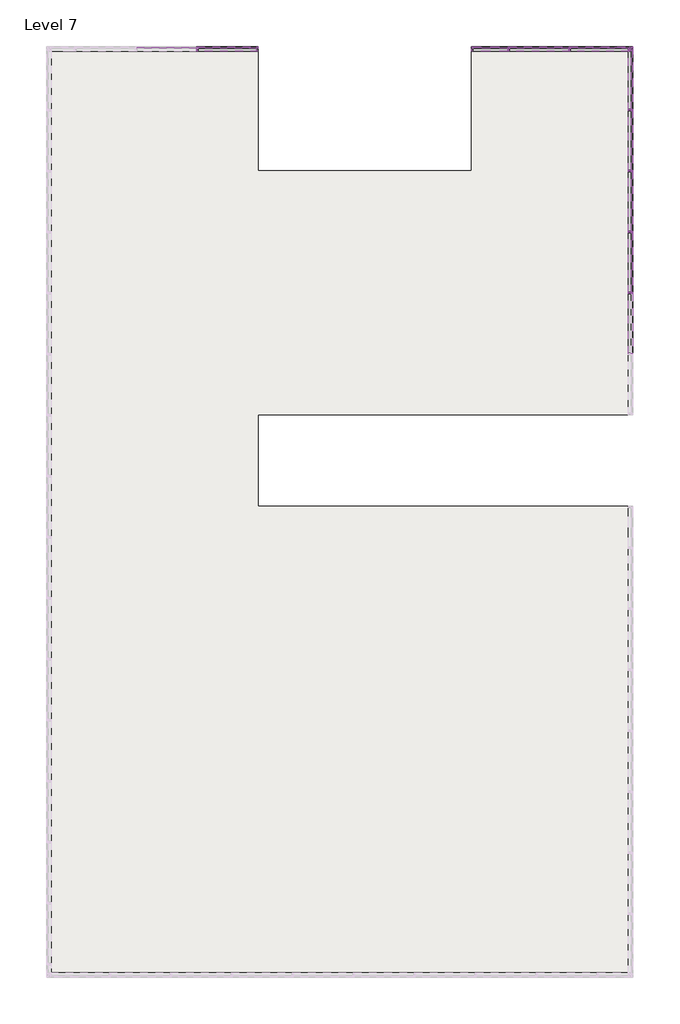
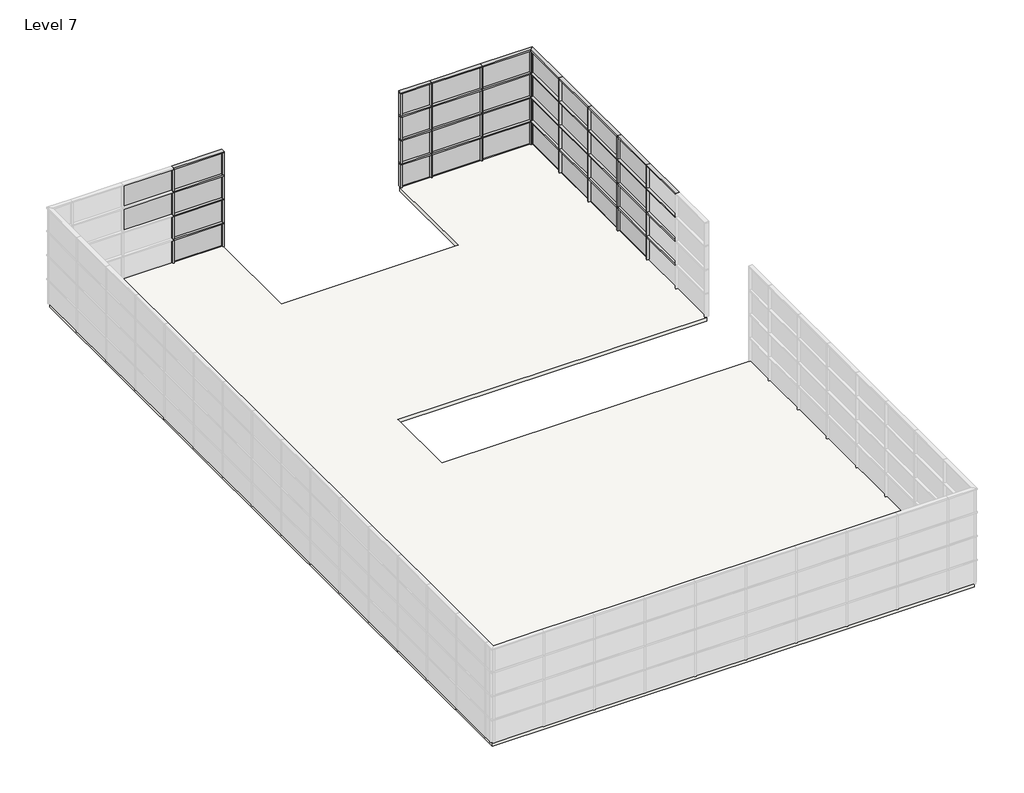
# One storey, part 5 of 5: 80 members, 34 plates, 1 slab.
"""IFC4 building model written with IfcOpenShell, lengths in millimetres."""

from ifc_helpers import new_model, si_unit, frame, origin, place, context, project, spatial, polyline, outline, extrude, transform, mapped, element, save
from components import rectangular_mullion_50_x_150mm_a053b0ca, rectangular_mullion_50_x_150mm_116cff39, rectangular_mullion_50_x_150mm_aa47fe12, rectangular_mullion_50_x_150mm_3a148f0f, rectangular_mullion_50_x_150mm_a91aaa2b, rectangular_mullion_50_x_150mm_12a430f9, rectangular_mullion_50_x_150mm_ca70b892, rectangular_mullion_50_x_150mm_11a594ce, rectangular_mullion_50_x_150mm_6b24f785, rectangular_mullion_50_x_150mm_614fafcd, rectangular_mullion_50_x_150mm_947845bb, rectangular_mullion_50_x_150mm_98c2ab41, system_panel_glazed_92d57a36, system_panel_glazed_751a585c, system_panel_glazed_28c32ad2, system_panel_glazed_08de6f5f, system_panel_glazed_c7e3270c, system_panel_glazed_892a108f

model = new_model("IFC4")

# Units and contexts
model_context = context("Model", 3, world=origin())
ifc_project = project(units=[si_unit("LENGTHUNIT", "METRE", prefix="MILLI")], contexts=[model_context])

# Site, building, storey
site = spatial("IfcSite", under=ifc_project)
building = spatial("IfcBuilding", under=site)
storey = spatial("IfcBuildingStorey", under=building, Name="Level 7", Elevation=24000.0)

# Members
placement = place(None, origin())
rectangular_mullion_50_x_150mm_shape = rectangular_mullion_50_x_150mm_a053b0ca(model_context)
element("IfcMember", 1, ObjectType="Rectangular Mullion : 50 x 150mm", at=placement, inside=storey, context=model_context, shape_type="MappedRepresentation", body=[
    mapped(rectangular_mullion_50_x_150mm_shape, transform((-721.580781, 8375.9839566, 24025.0), x_axis=(-1.0, 0.0, 0.0), y_axis=(0.0, 1.0, 0.0), z_axis=(0.0, 0.0, -0.9999999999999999))),
])
element("IfcMember", 2, ObjectType="Rectangular Mullion : 50 x 150mm", at=placement, inside=storey, context=model_context, shape_type="MappedRepresentation", body=[
    mapped(rectangular_mullion_50_x_150mm_shape, transform((-721.580781, 8375.9839566, 25025.0), x_axis=(-1.0, 0.0, 0.0), y_axis=(0.0, 1.0, 0.0), z_axis=(0.0, 0.0, -0.9999999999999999))),
])
element("IfcMember", 3, ObjectType="Rectangular Mullion : 50 x 150mm", at=placement, inside=storey, context=model_context, shape_type="MappedRepresentation", body=[
    mapped(rectangular_mullion_50_x_150mm_shape, transform((-721.580781, 8375.9839566, 26025.0), x_axis=(-1.0, 0.0, 0.0), y_axis=(0.0, 1.0, 0.0), z_axis=(0.0, 0.0, -0.9999999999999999))),
])
element("IfcMember", 4, ObjectType="Rectangular Mullion : 50 x 150mm", at=placement, inside=storey, context=model_context, shape_type="MappedRepresentation", body=[
    mapped(rectangular_mullion_50_x_150mm_shape, transform((9503.2660975, 8375.9839566, 24025.0), x_axis=(-1.0, 0.0, 0.0), y_axis=(0.0, 1.0, 0.0), z_axis=(0.0, 0.0, -0.9999999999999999))),
])
element("IfcMember", 5, ObjectType="Rectangular Mullion : 50 x 150mm", at=placement, inside=storey, context=model_context, shape_type="MappedRepresentation", body=[
    mapped(rectangular_mullion_50_x_150mm_shape, transform((9503.2660975, 8375.9839566, 25025.0), x_axis=(-1.0, 0.0, 0.0), y_axis=(0.0, 1.0, 0.0), z_axis=(0.0, 0.0, -0.9999999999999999))),
])
element("IfcMember", 6, ObjectType="Rectangular Mullion : 50 x 150mm", at=placement, inside=storey, context=model_context, shape_type="MappedRepresentation", body=[
    mapped(rectangular_mullion_50_x_150mm_shape, transform((9503.2660975, 8375.9839566, 26025.0), x_axis=(-1.0, 0.0, 0.0), y_axis=(0.0, 1.0, 0.0), z_axis=(0.0, 0.0, -0.9999999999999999))),
])
element("IfcMember", 7, ObjectType="Rectangular Mullion : 50 x 150mm", at=placement, inside=storey, context=model_context, shape_type="MappedRepresentation", body=[
    mapped(rectangular_mullion_50_x_150mm_shape, transform((11503.2660975, 8375.9839566, 24025.0), x_axis=(-1.0, 0.0, 0.0), y_axis=(0.0, 1.0, 0.0), z_axis=(0.0, 0.0, -0.9999999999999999))),
])
element("IfcMember", 8, ObjectType="Rectangular Mullion : 50 x 150mm", at=placement, inside=storey, context=model_context, shape_type="MappedRepresentation", body=[
    mapped(rectangular_mullion_50_x_150mm_shape, transform((11503.2660975, 8375.9839566, 25025.0), x_axis=(-1.0, 0.0, 0.0), y_axis=(0.0, 1.0, 0.0), z_axis=(0.0, 0.0, -0.9999999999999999))),
])
element("IfcMember", 9, ObjectType="Rectangular Mullion : 50 x 150mm", at=placement, inside=storey, context=model_context, shape_type="MappedRepresentation", body=[
    mapped(rectangular_mullion_50_x_150mm_shape, transform((11503.2660975, 8375.9839566, 26025.0), x_axis=(-1.0, 0.0, 0.0), y_axis=(0.0, 1.0, 0.0), z_axis=(0.0, 0.0, -0.9999999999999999))),
])
element("IfcMember", 10, ObjectType="Rectangular Mullion : 50 x 150mm", at=placement, inside=storey, context=model_context, shape_type="MappedRepresentation", body=[
    mapped(rectangular_mullion_50_x_150mm_shape, transform((13503.2660975, 375.9839566, 24025.0), x_axis=(0.0, 1.0, 0.0), y_axis=(1.0, 0.0, 0.0), z_axis=(0.0, 0.0, -0.9999999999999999))),
])
element("IfcMember", 11, ObjectType="Rectangular Mullion : 50 x 150mm", at=placement, inside=storey, context=model_context, shape_type="MappedRepresentation", body=[
    mapped(rectangular_mullion_50_x_150mm_shape, transform((13503.2660975, 375.9839566, 25025.0), x_axis=(0.0, 1.0, 0.0), y_axis=(1.0, 0.0, 0.0), z_axis=(0.0, 0.0, -0.9999999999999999))),
])
element("IfcMember", 12, ObjectType="Rectangular Mullion : 50 x 150mm", at=placement, inside=storey, context=model_context, shape_type="MappedRepresentation", body=[
    mapped(rectangular_mullion_50_x_150mm_shape, transform((13503.2660975, 375.9839566, 26025.0), x_axis=(0.0, 1.0, 0.0), y_axis=(1.0, 0.0, 0.0), z_axis=(0.0, 0.0, -0.9999999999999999))),
])
element("IfcMember", 13, ObjectType="Rectangular Mullion : 50 x 150mm", at=placement, inside=storey, context=model_context, shape_type="MappedRepresentation", body=[
    mapped(rectangular_mullion_50_x_150mm_shape, transform((13503.2660975, 2375.9839566, 24025.0), x_axis=(0.0, 1.0, 0.0), y_axis=(1.0, 0.0, 0.0), z_axis=(0.0, 0.0, -0.9999999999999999))),
])
element("IfcMember", 14, ObjectType="Rectangular Mullion : 50 x 150mm", at=placement, inside=storey, context=model_context, shape_type="MappedRepresentation", body=[
    mapped(rectangular_mullion_50_x_150mm_shape, transform((13503.2660975, 2375.9839566, 25025.0), x_axis=(0.0, 1.0, 0.0), y_axis=(1.0, 0.0, 0.0), z_axis=(0.0, 0.0, -0.9999999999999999))),
])
element("IfcMember", 15, ObjectType="Rectangular Mullion : 50 x 150mm", at=placement, inside=storey, context=model_context, shape_type="MappedRepresentation", body=[
    mapped(rectangular_mullion_50_x_150mm_shape, transform((13503.2660975, 2375.9839566, 26025.0), x_axis=(0.0, 1.0, 0.0), y_axis=(1.0, 0.0, 0.0), z_axis=(0.0, 0.0, -0.9999999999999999))),
])
element("IfcMember", 16, ObjectType="Rectangular Mullion : 50 x 150mm", at=placement, inside=storey, context=model_context, shape_type="MappedRepresentation", body=[
    mapped(rectangular_mullion_50_x_150mm_shape, transform((13503.2660975, 4375.9839566, 24025.0), x_axis=(0.0, 1.0, 0.0), y_axis=(1.0, 0.0, 0.0), z_axis=(0.0, 0.0, -0.9999999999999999))),
])
element("IfcMember", 17, ObjectType="Rectangular Mullion : 50 x 150mm", at=placement, inside=storey, context=model_context, shape_type="MappedRepresentation", body=[
    mapped(rectangular_mullion_50_x_150mm_shape, transform((13503.2660975, 4375.9839566, 25025.0), x_axis=(0.0, 1.0, 0.0), y_axis=(1.0, 0.0, 0.0), z_axis=(0.0, 0.0, -0.9999999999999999))),
])
element("IfcMember", 18, ObjectType="Rectangular Mullion : 50 x 150mm", at=placement, inside=storey, context=model_context, shape_type="MappedRepresentation", body=[
    mapped(rectangular_mullion_50_x_150mm_shape, transform((13503.2660975, 4375.9839566, 26025.0), x_axis=(0.0, 1.0, 0.0), y_axis=(1.0, 0.0, 0.0), z_axis=(0.0, 0.0, -0.9999999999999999))),
])
element("IfcMember", 19, ObjectType="Rectangular Mullion : 50 x 150mm", at=placement, inside=storey, context=model_context, shape_type="MappedRepresentation", body=[
    mapped(rectangular_mullion_50_x_150mm_shape, transform((13503.2660975, 6375.9839566, 24025.0), x_axis=(0.0, 1.0, 0.0), y_axis=(1.0, 0.0, 0.0), z_axis=(0.0, 0.0, -0.9999999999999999))),
])
element("IfcMember", 20, ObjectType="Rectangular Mullion : 50 x 150mm", at=placement, inside=storey, context=model_context, shape_type="MappedRepresentation", body=[
    mapped(rectangular_mullion_50_x_150mm_shape, transform((13503.2660975, 6375.9839566, 25025.0), x_axis=(0.0, 1.0, 0.0), y_axis=(1.0, 0.0, 0.0), z_axis=(0.0, 0.0, -0.9999999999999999))),
])
element("IfcMember", 21, ObjectType="Rectangular Mullion : 50 x 150mm", at=placement, inside=storey, context=model_context, shape_type="MappedRepresentation", body=[
    mapped(rectangular_mullion_50_x_150mm_shape, transform((13503.2660975, 6375.9839566, 26025.0), x_axis=(0.0, 1.0, 0.0), y_axis=(1.0, 0.0, 0.0), z_axis=(0.0, 0.0, -0.9999999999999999))),
])
rectangular_mullion_50_x_150mm_2_shape = rectangular_mullion_50_x_150mm_116cff39(model_context)
element("IfcMember", 22, ObjectType="Rectangular Mullion : 50 x 150mm", at=placement, inside=storey, context=model_context, shape_type="MappedRepresentation", body=[
    mapped(rectangular_mullion_50_x_150mm_2_shape, transform((-721.580781, 8375.9839566, 27025.0), x_axis=(-1.0, 0.0, 0.0), y_axis=(0.0, 1.0, 0.0), z_axis=(0.0, 0.0, -1.0))),
])
element("IfcMember", 23, ObjectType="Rectangular Mullion : 50 x 150mm", at=placement, inside=storey, context=model_context, shape_type="MappedRepresentation", body=[
    mapped(rectangular_mullion_50_x_150mm_2_shape, transform((9503.2660975, 8375.9839566, 27025.0), x_axis=(-1.0, 0.0, 0.0), y_axis=(0.0, 1.0, 0.0), z_axis=(0.0, 0.0, -1.0))),
])
element("IfcMember", 24, ObjectType="Rectangular Mullion : 50 x 150mm", at=placement, inside=storey, context=model_context, shape_type="MappedRepresentation", body=[
    mapped(rectangular_mullion_50_x_150mm_2_shape, transform((11503.2660975, 8375.9839566, 27025.0), x_axis=(-1.0, 0.0, 0.0), y_axis=(0.0, 1.0, 0.0), z_axis=(0.0, 0.0, -1.0))),
])
element("IfcMember", 25, ObjectType="Rectangular Mullion : 50 x 150mm", at=placement, inside=storey, context=model_context, shape_type="MappedRepresentation", body=[
    mapped(rectangular_mullion_50_x_150mm_2_shape, transform((13503.2660975, 375.9839566, 27025.0), x_axis=(0.0, 1.0, 0.0), y_axis=(1.0, 0.0, 0.0), z_axis=(0.0, 0.0, -1.0))),
])
element("IfcMember", 26, ObjectType="Rectangular Mullion : 50 x 150mm", at=placement, inside=storey, context=model_context, shape_type="MappedRepresentation", body=[
    mapped(rectangular_mullion_50_x_150mm_2_shape, transform((13503.2660975, 2375.9839566, 27025.0), x_axis=(0.0, 1.0, 0.0), y_axis=(1.0, 0.0, 0.0), z_axis=(0.0, 0.0, -1.0))),
])
element("IfcMember", 27, ObjectType="Rectangular Mullion : 50 x 150mm", at=placement, inside=storey, context=model_context, shape_type="MappedRepresentation", body=[
    mapped(rectangular_mullion_50_x_150mm_2_shape, transform((13503.2660975, 4375.9839566, 27025.0), x_axis=(0.0, 1.0, 0.0), y_axis=(1.0, 0.0, 0.0), z_axis=(0.0, 0.0, -1.0))),
])
element("IfcMember", 28, ObjectType="Rectangular Mullion : 50 x 150mm", at=placement, inside=storey, context=model_context, shape_type="MappedRepresentation", body=[
    mapped(rectangular_mullion_50_x_150mm_2_shape, transform((13503.2660975, 6375.9839566, 27025.0), x_axis=(0.0, 1.0, 0.0), y_axis=(1.0, 0.0, 0.0), z_axis=(0.0, 0.0, -1.0))),
])
rectangular_mullion_50_x_150mm_3_shape = rectangular_mullion_50_x_150mm_aa47fe12(model_context)
element("IfcMember", 29, ObjectType="Rectangular Mullion : 50 x 150mm", at=placement, inside=storey, context=model_context, shape_type="MappedRepresentation", body=[
    mapped(rectangular_mullion_50_x_150mm_3_shape, transform((-721.580781, 8375.9839566, 28000.0), x_axis=(0.0, 0.0, 1.0), y_axis=(0.0, 1.0, 0.0), z_axis=(-1.0, 0.0, 0.0))),
])
element("IfcMember", 30, ObjectType="Rectangular Mullion : 50 x 150mm", at=placement, inside=storey, context=model_context, shape_type="MappedRepresentation", body=[
    mapped(rectangular_mullion_50_x_150mm_3_shape, transform((9503.2660975, 8375.9839566, 28000.0), x_axis=(0.0, 0.0, 1.0), y_axis=(0.0, 1.0, 0.0), z_axis=(-1.0, 0.0, 0.0))),
])
element("IfcMember", 31, ObjectType="Rectangular Mullion : 50 x 150mm", at=placement, inside=storey, context=model_context, shape_type="MappedRepresentation", body=[
    mapped(rectangular_mullion_50_x_150mm_3_shape, transform((13503.2660975, 375.9839566, 28000.0), x_axis=(0.0, 0.0, 1.0), y_axis=(1.0, 0.0, 0.0), z_axis=(0.0, 0.9999999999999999, 0.0))),
])
element("IfcMember", 32, ObjectType="Rectangular Mullion : 50 x 150mm", at=placement, inside=storey, context=model_context, shape_type="MappedRepresentation", body=[
    mapped(rectangular_mullion_50_x_150mm_3_shape, transform((13503.2660975, 2375.9839566, 28000.0), x_axis=(0.0, 0.0, 1.0), y_axis=(1.0, 0.0, 0.0), z_axis=(0.0, 1.0, 0.0))),
])
element("IfcMember", 33, ObjectType="Rectangular Mullion : 50 x 150mm", at=placement, inside=storey, context=model_context, shape_type="MappedRepresentation", body=[
    mapped(rectangular_mullion_50_x_150mm_3_shape, transform((13503.2660975, 4375.9839566, 28000.0), x_axis=(0.0, 0.0, 1.0), y_axis=(1.0, 0.0, 0.0), z_axis=(0.0, 1.0, 0.0))),
])
element("IfcMember", 34, ObjectType="Rectangular Mullion : 50 x 150mm", at=placement, inside=storey, context=model_context, shape_type="MappedRepresentation", body=[
    mapped(rectangular_mullion_50_x_150mm_3_shape, transform((13503.2660975, 6375.9839566, 28000.0), x_axis=(0.0, 0.0, 1.0), y_axis=(1.0, 0.0, 0.0), z_axis=(0.0, 1.0, 0.0))),
])
rectangular_mullion_50_x_150mm_4_shape = rectangular_mullion_50_x_150mm_3a148f0f(model_context)
element("IfcMember", 35, ObjectType="Rectangular Mullion : 50 x 150mm", at=placement, inside=storey, context=model_context, shape_type="MappedRepresentation", body=[
    mapped(rectangular_mullion_50_x_150mm_4_shape, transform((-721.580781, 8375.9839566, 25000.0), x_axis=(0.0, 0.0, 1.0), y_axis=(0.0, 1.0, 0.0), z_axis=(-1.0, 0.0, 0.0))),
])
element("IfcMember", 36, ObjectType="Rectangular Mullion : 50 x 150mm", at=placement, inside=storey, context=model_context, shape_type="MappedRepresentation", body=[
    mapped(rectangular_mullion_50_x_150mm_4_shape, transform((-721.580781, 8375.9839566, 26000.0), x_axis=(0.0, 0.0, 1.0), y_axis=(0.0, 1.0, 0.0), z_axis=(-1.0, 0.0, 0.0))),
])
element("IfcMember", 37, ObjectType="Rectangular Mullion : 50 x 150mm", at=placement, inside=storey, context=model_context, shape_type="MappedRepresentation", body=[
    mapped(rectangular_mullion_50_x_150mm_4_shape, transform((-721.580781, 8375.9839566, 27000.0), x_axis=(0.0, 0.0, 1.0), y_axis=(0.0, 1.0, 0.0), z_axis=(-1.0, 0.0, 0.0))),
])
element("IfcMember", 38, ObjectType="Rectangular Mullion : 50 x 150mm", at=placement, inside=storey, context=model_context, shape_type="MappedRepresentation", body=[
    mapped(rectangular_mullion_50_x_150mm_4_shape, transform((9503.2660975, 8375.9839566, 25000.0), x_axis=(0.0, 0.0, 1.0), y_axis=(0.0, 1.0, 0.0), z_axis=(-1.0, 0.0, 0.0))),
])
element("IfcMember", 39, ObjectType="Rectangular Mullion : 50 x 150mm", at=placement, inside=storey, context=model_context, shape_type="MappedRepresentation", body=[
    mapped(rectangular_mullion_50_x_150mm_4_shape, transform((9503.2660975, 8375.9839566, 26000.0), x_axis=(0.0, 0.0, 1.0), y_axis=(0.0, 1.0, 0.0), z_axis=(-1.0, 0.0, 0.0))),
])
element("IfcMember", 40, ObjectType="Rectangular Mullion : 50 x 150mm", at=placement, inside=storey, context=model_context, shape_type="MappedRepresentation", body=[
    mapped(rectangular_mullion_50_x_150mm_4_shape, transform((9503.2660975, 8375.9839566, 27000.0), x_axis=(0.0, 0.0, 1.0), y_axis=(0.0, 1.0, 0.0), z_axis=(-1.0, 0.0, 0.0))),
])
element("IfcMember", 41, ObjectType="Rectangular Mullion : 50 x 150mm", at=placement, inside=storey, context=model_context, shape_type="MappedRepresentation", body=[
    mapped(rectangular_mullion_50_x_150mm_4_shape, transform((13503.2660975, 375.9839566, 25000.0), x_axis=(0.0, 0.0, 1.0), y_axis=(1.0, 0.0, 0.0), z_axis=(0.0, 0.9999999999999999, 0.0))),
])
element("IfcMember", 42, ObjectType="Rectangular Mullion : 50 x 150mm", at=placement, inside=storey, context=model_context, shape_type="MappedRepresentation", body=[
    mapped(rectangular_mullion_50_x_150mm_4_shape, transform((13503.2660975, 2375.9839566, 25000.0), x_axis=(0.0, 0.0, 1.0), y_axis=(1.0, 0.0, 0.0), z_axis=(0.0, 1.0, 0.0))),
])
element("IfcMember", 43, ObjectType="Rectangular Mullion : 50 x 150mm", at=placement, inside=storey, context=model_context, shape_type="MappedRepresentation", body=[
    mapped(rectangular_mullion_50_x_150mm_4_shape, transform((13503.2660975, 4375.9839566, 25000.0), x_axis=(0.0, 0.0, 1.0), y_axis=(1.0, 0.0, 0.0), z_axis=(0.0, 1.0, 0.0))),
])
element("IfcMember", 44, ObjectType="Rectangular Mullion : 50 x 150mm", at=placement, inside=storey, context=model_context, shape_type="MappedRepresentation", body=[
    mapped(rectangular_mullion_50_x_150mm_4_shape, transform((13503.2660975, 6375.9839566, 25000.0), x_axis=(0.0, 0.0, 1.0), y_axis=(1.0, 0.0, 0.0), z_axis=(0.0, 1.0, 0.0))),
])
element("IfcMember", 45, ObjectType="Rectangular Mullion : 50 x 150mm", at=placement, inside=storey, context=model_context, shape_type="MappedRepresentation", body=[
    mapped(rectangular_mullion_50_x_150mm_4_shape, transform((13503.2660975, 375.9839566, 26000.0), x_axis=(0.0, 0.0, 1.0), y_axis=(1.0, 0.0, 0.0), z_axis=(0.0, 0.9999999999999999, 0.0))),
])
element("IfcMember", 46, ObjectType="Rectangular Mullion : 50 x 150mm", at=placement, inside=storey, context=model_context, shape_type="MappedRepresentation", body=[
    mapped(rectangular_mullion_50_x_150mm_4_shape, transform((13503.2660975, 2375.9839566, 26000.0), x_axis=(0.0, 0.0, 1.0), y_axis=(1.0, 0.0, 0.0), z_axis=(0.0, 1.0, 0.0))),
])
element("IfcMember", 47, ObjectType="Rectangular Mullion : 50 x 150mm", at=placement, inside=storey, context=model_context, shape_type="MappedRepresentation", body=[
    mapped(rectangular_mullion_50_x_150mm_4_shape, transform((13503.2660975, 4375.9839566, 26000.0), x_axis=(0.0, 0.0, 1.0), y_axis=(1.0, 0.0, 0.0), z_axis=(0.0, 1.0, 0.0))),
])
element("IfcMember", 48, ObjectType="Rectangular Mullion : 50 x 150mm", at=placement, inside=storey, context=model_context, shape_type="MappedRepresentation", body=[
    mapped(rectangular_mullion_50_x_150mm_4_shape, transform((13503.2660975, 6375.9839566, 26000.0), x_axis=(0.0, 0.0, 1.0), y_axis=(1.0, 0.0, 0.0), z_axis=(0.0, 1.0, 0.0))),
])
element("IfcMember", 49, ObjectType="Rectangular Mullion : 50 x 150mm", at=placement, inside=storey, context=model_context, shape_type="MappedRepresentation", body=[
    mapped(rectangular_mullion_50_x_150mm_4_shape, transform((13503.2660975, 375.9839566, 27000.0), x_axis=(0.0, 0.0, 1.0), y_axis=(1.0, 0.0, 0.0), z_axis=(0.0, 0.9999999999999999, 0.0))),
])
element("IfcMember", 50, ObjectType="Rectangular Mullion : 50 x 150mm", at=placement, inside=storey, context=model_context, shape_type="MappedRepresentation", body=[
    mapped(rectangular_mullion_50_x_150mm_4_shape, transform((13503.2660975, 2375.9839566, 27000.0), x_axis=(0.0, 0.0, 1.0), y_axis=(1.0, 0.0, 0.0), z_axis=(0.0, 1.0, 0.0))),
])
element("IfcMember", 51, ObjectType="Rectangular Mullion : 50 x 150mm", at=placement, inside=storey, context=model_context, shape_type="MappedRepresentation", body=[
    mapped(rectangular_mullion_50_x_150mm_4_shape, transform((13503.2660975, 4375.9839566, 27000.0), x_axis=(0.0, 0.0, 1.0), y_axis=(1.0, 0.0, 0.0), z_axis=(0.0, 1.0, 0.0))),
])
element("IfcMember", 52, ObjectType="Rectangular Mullion : 50 x 150mm", at=placement, inside=storey, context=model_context, shape_type="MappedRepresentation", body=[
    mapped(rectangular_mullion_50_x_150mm_4_shape, transform((13503.2660975, 6375.9839566, 27000.0), x_axis=(0.0, 0.0, 1.0), y_axis=(1.0, 0.0, 0.0), z_axis=(0.0, 1.0, 0.0))),
])
rectangular_mullion_50_x_150mm_5_shape = rectangular_mullion_50_x_150mm_a91aaa2b(model_context)
element("IfcMember", 53, ObjectType="Rectangular Mullion : 50 x 150mm", at=placement, inside=storey, context=model_context, shape_type="MappedRepresentation", body=[
    mapped(rectangular_mullion_50_x_150mm_5_shape, transform((1278.419219, 8375.9839566, 27950.0), x_axis=(1.0, 0.0, 0.0), y_axis=(0.0, 1.0, 0.0), z_axis=(0.0, 0.0, 1.0))),
])
element("IfcMember", 54, ObjectType="Rectangular Mullion : 50 x 150mm", at=placement, inside=storey, context=model_context, shape_type="MappedRepresentation", body=[
    mapped(rectangular_mullion_50_x_150mm_5_shape, transform((13503.2660975, 8375.9839566, 27950.0), x_axis=(1.0, 0.0, 0.0), y_axis=(0.0, 1.0, 0.0), z_axis=(0.0, 0.0, 1.0))),
])
rectangular_mullion_50_x_150mm_6_shape = rectangular_mullion_50_x_150mm_12a430f9(model_context)
element("IfcMember", 55, ObjectType="Rectangular Mullion : 50 x 150mm", at=placement, inside=storey, context=model_context, shape_type="MappedRepresentation", body=[
    mapped(rectangular_mullion_50_x_150mm_6_shape, transform((1278.419219, 8375.9839566, 24975.0), x_axis=(1.0, 0.0, 0.0), y_axis=(0.0, 1.0, 0.0), z_axis=(0.0, 0.0, 0.9999999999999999))),
])
element("IfcMember", 56, ObjectType="Rectangular Mullion : 50 x 150mm", at=placement, inside=storey, context=model_context, shape_type="MappedRepresentation", body=[
    mapped(rectangular_mullion_50_x_150mm_6_shape, transform((1278.419219, 8375.9839566, 25975.0), x_axis=(1.0, 0.0, 0.0), y_axis=(0.0, 1.0, 0.0), z_axis=(0.0, 0.0, 0.9999999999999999))),
])
element("IfcMember", 57, ObjectType="Rectangular Mullion : 50 x 150mm", at=placement, inside=storey, context=model_context, shape_type="MappedRepresentation", body=[
    mapped(rectangular_mullion_50_x_150mm_6_shape, transform((1278.419219, 8375.9839566, 26975.0), x_axis=(1.0, 0.0, 0.0), y_axis=(0.0, 1.0, 0.0), z_axis=(0.0, 0.0, 0.9999999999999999))),
])
element("IfcMember", 58, ObjectType="Rectangular Mullion : 50 x 150mm", at=placement, inside=storey, context=model_context, shape_type="MappedRepresentation", body=[
    mapped(rectangular_mullion_50_x_150mm_6_shape, transform((13503.2660975, 8375.9839566, 24975.0), x_axis=(1.0, 0.0, 0.0), y_axis=(0.0, 1.0, 0.0), z_axis=(0.0, 0.0, 0.9999999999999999))),
])
element("IfcMember", 59, ObjectType="Rectangular Mullion : 50 x 150mm", at=placement, inside=storey, context=model_context, shape_type="MappedRepresentation", body=[
    mapped(rectangular_mullion_50_x_150mm_6_shape, transform((13503.2660975, 8375.9839566, 25975.0), x_axis=(1.0, 0.0, 0.0), y_axis=(0.0, 1.0, 0.0), z_axis=(0.0, 0.0, 0.9999999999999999))),
])
element("IfcMember", 60, ObjectType="Rectangular Mullion : 50 x 150mm", at=placement, inside=storey, context=model_context, shape_type="MappedRepresentation", body=[
    mapped(rectangular_mullion_50_x_150mm_6_shape, transform((13503.2660975, 8375.9839566, 26975.0), x_axis=(1.0, 0.0, 0.0), y_axis=(0.0, 1.0, 0.0), z_axis=(0.0, 0.0, 0.9999999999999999))),
])
element("IfcMember", 61, ObjectType="Rectangular Mullion : 50 x 150mm", at=placement, inside=storey, context=model_context, shape_type="MappedRepresentation", body=[
    mapped(rectangular_mullion_50_x_150mm_6_shape, transform((8278.419219, 8375.9839566, 24025.0), x_axis=(-1.0, 0.0, 0.0), y_axis=(0.0, 1.0, 0.0), z_axis=(0.0, 0.0, -0.9999999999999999))),
])
element("IfcMember", 62, ObjectType="Rectangular Mullion : 50 x 150mm", at=placement, inside=storey, context=model_context, shape_type="MappedRepresentation", body=[
    mapped(rectangular_mullion_50_x_150mm_6_shape, transform((8278.419219, 8375.9839566, 25025.0), x_axis=(-1.0, 0.0, 0.0), y_axis=(0.0, 1.0, 0.0), z_axis=(0.0, 0.0, -0.9999999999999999))),
])
element("IfcMember", 63, ObjectType="Rectangular Mullion : 50 x 150mm", at=placement, inside=storey, context=model_context, shape_type="MappedRepresentation", body=[
    mapped(rectangular_mullion_50_x_150mm_6_shape, transform((8278.419219, 8375.9839566, 26025.0), x_axis=(-1.0, 0.0, 0.0), y_axis=(0.0, 1.0, 0.0), z_axis=(0.0, 0.0, -0.9999999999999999))),
])
element("IfcMember", 64, ObjectType="Rectangular Mullion : 50 x 150mm", at=placement, inside=storey, context=model_context, shape_type="MappedRepresentation", body=[
    mapped(rectangular_mullion_50_x_150mm_6_shape, transform((13503.2660975, 8375.9839566, 24025.0), x_axis=(0.0, 1.0, 0.0), y_axis=(1.0, 0.0, 0.0), z_axis=(0.0, 0.0, -0.9999999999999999))),
])
element("IfcMember", 65, ObjectType="Rectangular Mullion : 50 x 150mm", at=placement, inside=storey, context=model_context, shape_type="MappedRepresentation", body=[
    mapped(rectangular_mullion_50_x_150mm_6_shape, transform((13503.2660975, 8375.9839566, 25025.0), x_axis=(0.0, 1.0, 0.0), y_axis=(1.0, 0.0, 0.0), z_axis=(0.0, 0.0, -0.9999999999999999))),
])
element("IfcMember", 66, ObjectType="Rectangular Mullion : 50 x 150mm", at=placement, inside=storey, context=model_context, shape_type="MappedRepresentation", body=[
    mapped(rectangular_mullion_50_x_150mm_6_shape, transform((13503.2660975, 8375.9839566, 26025.0), x_axis=(0.0, 1.0, 0.0), y_axis=(1.0, 0.0, 0.0), z_axis=(0.0, 0.0, -0.9999999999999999))),
])
element("IfcMember", 67, ObjectType="Rectangular Mullion : 50 x 150mm", at=placement, inside=storey, context=model_context, shape_type="MappedRepresentation", body=[
    mapped(rectangular_mullion_50_x_150mm_5_shape, transform((8278.419219, 8375.9839566, 27025.0), x_axis=(-1.0, 0.0, 0.0), y_axis=(0.0, 1.0, 0.0), z_axis=(0.0, 0.0, -1.0))),
])
element("IfcMember", 68, ObjectType="Rectangular Mullion : 50 x 150mm", at=placement, inside=storey, context=model_context, shape_type="MappedRepresentation", body=[
    mapped(rectangular_mullion_50_x_150mm_5_shape, transform((13503.2660975, 8375.9839566, 27025.0), x_axis=(0.0, 1.0, 0.0), y_axis=(1.0, 0.0, 0.0), z_axis=(0.0, 0.0, -1.0))),
])
rectangular_mullion_50_x_150mm_7_shape = rectangular_mullion_50_x_150mm_ca70b892(model_context)
element("IfcMember", 69, ObjectType="Rectangular Mullion : 50 x 150mm", at=placement, inside=storey, context=model_context, shape_type="MappedRepresentation", body=[
    mapped(rectangular_mullion_50_x_150mm_7_shape, transform((8278.419219, 8375.9839566, 28000.0), x_axis=(0.0, 0.0, 1.0), y_axis=(0.0, 1.0, 0.0), z_axis=(-1.0, 0.0, 0.0))),
])
rectangular_mullion_50_x_150mm_8_shape = rectangular_mullion_50_x_150mm_11a594ce(model_context)
element("IfcMember", 70, ObjectType="Rectangular Mullion : 50 x 150mm", at=placement, inside=storey, context=model_context, shape_type="MappedRepresentation", body=[
    mapped(rectangular_mullion_50_x_150mm_8_shape, transform((8278.419219, 8375.9839566, 25000.0), x_axis=(0.0, 0.0, 1.0), y_axis=(0.0, 1.0, 0.0), z_axis=(-1.0, 0.0, 0.0))),
])
element("IfcMember", 71, ObjectType="Rectangular Mullion : 50 x 150mm", at=placement, inside=storey, context=model_context, shape_type="MappedRepresentation", body=[
    mapped(rectangular_mullion_50_x_150mm_8_shape, transform((8278.419219, 8375.9839566, 26000.0), x_axis=(0.0, 0.0, 1.0), y_axis=(0.0, 1.0, 0.0), z_axis=(-1.0, 0.0, 0.0))),
])
element("IfcMember", 72, ObjectType="Rectangular Mullion : 50 x 150mm", at=placement, inside=storey, context=model_context, shape_type="MappedRepresentation", body=[
    mapped(rectangular_mullion_50_x_150mm_8_shape, transform((8278.419219, 8375.9839566, 27000.0), x_axis=(0.0, 0.0, 1.0), y_axis=(0.0, 1.0, 0.0), z_axis=(-1.0, 0.0, 0.0))),
])
rectangular_mullion_50_x_150mm_9_shape = rectangular_mullion_50_x_150mm_6b24f785(model_context)
element("IfcMember", 73, ObjectType="Rectangular Mullion : 50 x 150mm", at=placement, inside=storey, context=model_context, shape_type="MappedRepresentation", body=[
    mapped(rectangular_mullion_50_x_150mm_9_shape, transform((13503.2660975, 8375.9839566, 25000.0), x_axis=(0.0, 0.0, 1.0), y_axis=(1.0, 0.0, 0.0), z_axis=(0.0, 0.9999999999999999, 0.0))),
])
element("IfcMember", 74, ObjectType="Rectangular Mullion : 50 x 150mm", at=placement, inside=storey, context=model_context, shape_type="MappedRepresentation", body=[
    mapped(rectangular_mullion_50_x_150mm_9_shape, transform((13503.2660975, 8375.9839566, 26000.0), x_axis=(0.0, 0.0, 1.0), y_axis=(1.0, 0.0, 0.0), z_axis=(0.0, 0.9999999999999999, 0.0))),
])
element("IfcMember", 75, ObjectType="Rectangular Mullion : 50 x 150mm", at=placement, inside=storey, context=model_context, shape_type="MappedRepresentation", body=[
    mapped(rectangular_mullion_50_x_150mm_9_shape, transform((13503.2660975, 8375.9839566, 27000.0), x_axis=(0.0, 0.0, 1.0), y_axis=(1.0, 0.0, 0.0), z_axis=(0.0, 0.9999999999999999, 0.0))),
])
rectangular_mullion_50_x_150mm_10_shape = rectangular_mullion_50_x_150mm_614fafcd(model_context)
element("IfcMember", 76, ObjectType="Rectangular Mullion : 50 x 150mm", at=placement, inside=storey, context=model_context, shape_type="MappedRepresentation", body=[
    mapped(rectangular_mullion_50_x_150mm_10_shape, transform((13503.2660975, 8375.9839566, 28000.0), x_axis=(0.0, 0.0, 1.0), y_axis=(1.0, 0.0, 0.0), z_axis=(0.0, 0.9999999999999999, 0.0))),
])
rectangular_mullion_50_x_150mm_11_shape = rectangular_mullion_50_x_150mm_947845bb(model_context)
element("IfcMember", 77, ObjectType="Rectangular Mullion : 50 x 150mm", at=placement, inside=storey, context=model_context, shape_type="MappedRepresentation", body=[
    mapped(rectangular_mullion_50_x_150mm_11_shape, transform((11503.2660975, 8375.9839566, 25000.0), x_axis=(0.0, 0.0, 1.0), y_axis=(0.0, 1.0, 0.0), z_axis=(-1.0, 0.0, 0.0))),
])
element("IfcMember", 78, ObjectType="Rectangular Mullion : 50 x 150mm", at=placement, inside=storey, context=model_context, shape_type="MappedRepresentation", body=[
    mapped(rectangular_mullion_50_x_150mm_11_shape, transform((11503.2660975, 8375.9839566, 26000.0), x_axis=(0.0, 0.0, 1.0), y_axis=(0.0, 1.0, 0.0), z_axis=(-1.0, 0.0, 0.0))),
])
element("IfcMember", 79, ObjectType="Rectangular Mullion : 50 x 150mm", at=placement, inside=storey, context=model_context, shape_type="MappedRepresentation", body=[
    mapped(rectangular_mullion_50_x_150mm_11_shape, transform((11503.2660975, 8375.9839566, 27000.0), x_axis=(0.0, 0.0, 1.0), y_axis=(0.0, 1.0, 0.0), z_axis=(-1.0, 0.0, 0.0))),
])
rectangular_mullion_50_x_150mm_12_shape = rectangular_mullion_50_x_150mm_98c2ab41(model_context)
element("IfcMember", 80, ObjectType="Rectangular Mullion : 50 x 150mm", at=placement, inside=storey, context=model_context, shape_type="MappedRepresentation", body=[
    mapped(rectangular_mullion_50_x_150mm_12_shape, transform((11503.2660975, 8375.9839566, 28000.0), x_axis=(0.0, 0.0, 1.0), y_axis=(0.0, 1.0, 0.0), z_axis=(-1.0, 0.0, 0.0))),
])

# Plates
system_panel_glazed_shape = system_panel_glazed_92d57a36(model_context)
element("IfcPlate", 81, ObjectType="System Panel : Glazed", at=placement, inside=storey, context=model_context, shape_type="MappedRepresentation", body=[
    mapped(system_panel_glazed_shape, transform((13503.2660975, 6400.9839566, 27487.5), x_axis=(0.0, 0.0, 1.0), y_axis=(1.0, 0.0, 0.0), z_axis=(0.0, 1.0, 0.0))),
])
element("IfcPlate", 82, ObjectType="System Panel : Glazed", at=placement, inside=storey, context=model_context, shape_type="MappedRepresentation", body=[
    mapped(system_panel_glazed_shape, transform((13453.2660975, 8375.9839566, 27487.5), x_axis=(0.0, 0.0, 1.0), y_axis=(0.0, 1.0, 0.0), z_axis=(-1.0, 0.0, 0.0))),
])
element("IfcPlate", 83, ObjectType="System Panel : Glazed", at=placement, inside=storey, context=model_context, shape_type="MappedRepresentation", body=[
    mapped(system_panel_glazed_shape, transform((1228.419219, 8375.9839566, 27487.5), x_axis=(0.0, 0.0, 1.0), y_axis=(0.0, 1.0, 0.0), z_axis=(-1.0, 0.0, 0.0))),
])
system_panel_glazed_2_shape = system_panel_glazed_751a585c(model_context)
element("IfcPlate", 84, ObjectType="System Panel : Glazed", at=placement, inside=storey, context=model_context, shape_type="MappedRepresentation", body=[
    mapped(system_panel_glazed_2_shape, transform((13503.2660975, 6400.9839566, 24500.0), x_axis=(0.0, 0.0, 1.0), y_axis=(1.0, 0.0, 0.0), z_axis=(0.0, 1.0, 0.0))),
])
element("IfcPlate", 85, ObjectType="System Panel : Glazed", at=placement, inside=storey, context=model_context, shape_type="MappedRepresentation", body=[
    mapped(system_panel_glazed_2_shape, transform((13503.2660975, 6400.9839566, 25500.0), x_axis=(0.0, 0.0, 1.0), y_axis=(1.0, 0.0, 0.0), z_axis=(0.0, 1.0, 0.0))),
])
element("IfcPlate", 86, ObjectType="System Panel : Glazed", at=placement, inside=storey, context=model_context, shape_type="MappedRepresentation", body=[
    mapped(system_panel_glazed_2_shape, transform((13503.2660975, 6400.9839566, 26500.0), x_axis=(0.0, 0.0, 1.0), y_axis=(1.0, 0.0, 0.0), z_axis=(0.0, 1.0, 0.0))),
])
element("IfcPlate", 87, ObjectType="System Panel : Glazed", at=placement, inside=storey, context=model_context, shape_type="MappedRepresentation", body=[
    mapped(system_panel_glazed_2_shape, transform((13453.2660975, 8375.9839566, 24500.0), x_axis=(0.0, 0.0, 1.0), y_axis=(0.0, 1.0, 0.0), z_axis=(-1.0, 0.0, 0.0))),
])
element("IfcPlate", 88, ObjectType="System Panel : Glazed", at=placement, inside=storey, context=model_context, shape_type="MappedRepresentation", body=[
    mapped(system_panel_glazed_2_shape, transform((13453.2660975, 8375.9839566, 25500.0), x_axis=(0.0, 0.0, 1.0), y_axis=(0.0, 1.0, 0.0), z_axis=(-1.0, 0.0, 0.0))),
])
element("IfcPlate", 89, ObjectType="System Panel : Glazed", at=placement, inside=storey, context=model_context, shape_type="MappedRepresentation", body=[
    mapped(system_panel_glazed_2_shape, transform((13453.2660975, 8375.9839566, 26500.0), x_axis=(0.0, 0.0, 1.0), y_axis=(0.0, 1.0, 0.0), z_axis=(-1.0, 0.0, 0.0))),
])
element("IfcPlate", 90, ObjectType="System Panel : Glazed", at=placement, inside=storey, context=model_context, shape_type="MappedRepresentation", body=[
    mapped(system_panel_glazed_2_shape, transform((1228.419219, 8375.9839566, 24500.0), x_axis=(0.0, 0.0, 1.0), y_axis=(0.0, 1.0, 0.0), z_axis=(-1.0, 0.0, 0.0))),
])
element("IfcPlate", 91, ObjectType="System Panel : Glazed", at=placement, inside=storey, context=model_context, shape_type="MappedRepresentation", body=[
    mapped(system_panel_glazed_2_shape, transform((1228.419219, 8375.9839566, 25500.0), x_axis=(0.0, 0.0, 1.0), y_axis=(0.0, 1.0, 0.0), z_axis=(-1.0, 0.0, 0.0))),
])
element("IfcPlate", 92, ObjectType="System Panel : Glazed", at=placement, inside=storey, context=model_context, shape_type="MappedRepresentation", body=[
    mapped(system_panel_glazed_2_shape, transform((1228.419219, 8375.9839566, 26500.0), x_axis=(0.0, 0.0, 1.0), y_axis=(0.0, 1.0, 0.0), z_axis=(-1.0, 0.0, 0.0))),
])
system_panel_glazed_3_shape = system_panel_glazed_28c32ad2(model_context)
element("IfcPlate", 93, ObjectType="System Panel : Glazed", at=placement, inside=storey, context=model_context, shape_type="MappedRepresentation", body=[
    mapped(system_panel_glazed_3_shape, transform((13503.2660975, 400.9839566, 27487.5), x_axis=(0.0, 0.0, 1.0), y_axis=(1.0, 0.0, 0.0), z_axis=(0.0, 1.0, 0.0))),
])
element("IfcPlate", 94, ObjectType="System Panel : Glazed", at=placement, inside=storey, context=model_context, shape_type="MappedRepresentation", body=[
    mapped(system_panel_glazed_3_shape, transform((13503.2660975, 2400.9839566, 27487.5), x_axis=(0.0, 0.0, 1.0), y_axis=(1.0, 0.0, 0.0), z_axis=(0.0, 1.0, 0.0))),
])
element("IfcPlate", 95, ObjectType="System Panel : Glazed", at=placement, inside=storey, context=model_context, shape_type="MappedRepresentation", body=[
    mapped(system_panel_glazed_3_shape, transform((13503.2660975, 4400.9839566, 27487.5), x_axis=(0.0, 0.0, 1.0), y_axis=(1.0, 0.0, 0.0), z_axis=(0.0, 1.0, 0.0))),
])
element("IfcPlate", 96, ObjectType="System Panel : Glazed", at=placement, inside=storey, context=model_context, shape_type="MappedRepresentation", body=[
    mapped(system_panel_glazed_3_shape, transform((11478.2660975, 8375.9839566, 27487.5), x_axis=(0.0, 0.0, 1.0), y_axis=(0.0, 1.0, 0.0), z_axis=(-1.0, 0.0, 0.0))),
])
element("IfcPlate", 97, ObjectType="System Panel : Glazed", at=placement, inside=storey, context=model_context, shape_type="MappedRepresentation", body=[
    mapped(system_panel_glazed_3_shape, transform((-746.580781, 8375.9839566, 27487.5), x_axis=(0.0, 0.0, 1.0), y_axis=(0.0, 1.0, 0.0), z_axis=(-1.0, 0.0, 0.0))),
])
system_panel_glazed_4_shape = system_panel_glazed_08de6f5f(model_context)
element("IfcPlate", 98, ObjectType="System Panel : Glazed", at=placement, inside=storey, context=model_context, shape_type="MappedRepresentation", body=[
    mapped(system_panel_glazed_4_shape, transform((13503.2660975, 400.9839566, 24500.0), x_axis=(0.0, 0.0, 1.0), y_axis=(1.0, 0.0, 0.0), z_axis=(0.0, 1.0, 0.0))),
])
element("IfcPlate", 99, ObjectType="System Panel : Glazed", at=placement, inside=storey, context=model_context, shape_type="MappedRepresentation", body=[
    mapped(system_panel_glazed_4_shape, transform((13503.2660975, 2400.9839566, 24500.0), x_axis=(0.0, 0.0, 1.0), y_axis=(1.0, 0.0, 0.0), z_axis=(0.0, 1.0, 0.0))),
])
element("IfcPlate", 100, ObjectType="System Panel : Glazed", at=placement, inside=storey, context=model_context, shape_type="MappedRepresentation", body=[
    mapped(system_panel_glazed_4_shape, transform((13503.2660975, 4400.9839566, 24500.0), x_axis=(0.0, 0.0, 1.0), y_axis=(1.0, 0.0, 0.0), z_axis=(0.0, 1.0, 0.0))),
])
element("IfcPlate", 101, ObjectType="System Panel : Glazed", at=placement, inside=storey, context=model_context, shape_type="MappedRepresentation", body=[
    mapped(system_panel_glazed_4_shape, transform((13503.2660975, 400.9839566, 25500.0), x_axis=(0.0, 0.0, 1.0), y_axis=(1.0, 0.0, 0.0), z_axis=(0.0, 1.0, 0.0))),
])
element("IfcPlate", 102, ObjectType="System Panel : Glazed", at=placement, inside=storey, context=model_context, shape_type="MappedRepresentation", body=[
    mapped(system_panel_glazed_4_shape, transform((13503.2660975, 2400.9839566, 25500.0), x_axis=(0.0, 0.0, 1.0), y_axis=(1.0, 0.0, 0.0), z_axis=(0.0, 1.0, 0.0))),
])
element("IfcPlate", 103, ObjectType="System Panel : Glazed", at=placement, inside=storey, context=model_context, shape_type="MappedRepresentation", body=[
    mapped(system_panel_glazed_4_shape, transform((13503.2660975, 4400.9839566, 25500.0), x_axis=(0.0, 0.0, 1.0), y_axis=(1.0, 0.0, 0.0), z_axis=(0.0, 1.0, 0.0))),
])
element("IfcPlate", 104, ObjectType="System Panel : Glazed", at=placement, inside=storey, context=model_context, shape_type="MappedRepresentation", body=[
    mapped(system_panel_glazed_4_shape, transform((13503.2660975, 400.9839566, 26500.0), x_axis=(0.0, 0.0, 1.0), y_axis=(1.0, 0.0, 0.0), z_axis=(0.0, 1.0, 0.0))),
])
element("IfcPlate", 105, ObjectType="System Panel : Glazed", at=placement, inside=storey, context=model_context, shape_type="MappedRepresentation", body=[
    mapped(system_panel_glazed_4_shape, transform((13503.2660975, 2400.9839566, 26500.0), x_axis=(0.0, 0.0, 1.0), y_axis=(1.0, 0.0, 0.0), z_axis=(0.0, 1.0, 0.0))),
])
element("IfcPlate", 106, ObjectType="System Panel : Glazed", at=placement, inside=storey, context=model_context, shape_type="MappedRepresentation", body=[
    mapped(system_panel_glazed_4_shape, transform((13503.2660975, 4400.9839566, 26500.0), x_axis=(0.0, 0.0, 1.0), y_axis=(1.0, 0.0, 0.0), z_axis=(0.0, 1.0, 0.0))),
])
element("IfcPlate", 107, ObjectType="System Panel : Glazed", at=placement, inside=storey, context=model_context, shape_type="MappedRepresentation", body=[
    mapped(system_panel_glazed_4_shape, transform((11478.2660975, 8375.9839566, 24500.0), x_axis=(0.0, 0.0, 1.0), y_axis=(0.0, 1.0, 0.0), z_axis=(-1.0, 0.0, 0.0))),
])
element("IfcPlate", 108, ObjectType="System Panel : Glazed", at=placement, inside=storey, context=model_context, shape_type="MappedRepresentation", body=[
    mapped(system_panel_glazed_4_shape, transform((11478.2660975, 8375.9839566, 25500.0), x_axis=(0.0, 0.0, 1.0), y_axis=(0.0, 1.0, 0.0), z_axis=(-1.0, 0.0, 0.0))),
])
element("IfcPlate", 109, ObjectType="System Panel : Glazed", at=placement, inside=storey, context=model_context, shape_type="MappedRepresentation", body=[
    mapped(system_panel_glazed_4_shape, transform((11478.2660975, 8375.9839566, 26500.0), x_axis=(0.0, 0.0, 1.0), y_axis=(0.0, 1.0, 0.0), z_axis=(-1.0, 0.0, 0.0))),
])
element("IfcPlate", 110, ObjectType="System Panel : Glazed", at=placement, inside=storey, context=model_context, shape_type="MappedRepresentation", body=[
    mapped(system_panel_glazed_4_shape, transform((-746.580781, 8375.9839566, 26500.0), x_axis=(0.0, 0.0, 1.0), y_axis=(0.0, 1.0, 0.0), z_axis=(-1.0, 0.0, 0.0))),
])
system_panel_glazed_5_shape = system_panel_glazed_c7e3270c(model_context)
element("IfcPlate", 111, ObjectType="System Panel : Glazed", at=placement, inside=storey, context=model_context, shape_type="MappedRepresentation", body=[
    mapped(system_panel_glazed_5_shape, transform((9478.2660975, 8375.9839566, 27487.5), x_axis=(0.0, 0.0, 1.0), y_axis=(0.0, 1.0, 0.0), z_axis=(-1.0, 0.0, 0.0))),
])
system_panel_glazed_6_shape = system_panel_glazed_892a108f(model_context)
element("IfcPlate", 112, ObjectType="System Panel : Glazed", at=placement, inside=storey, context=model_context, shape_type="MappedRepresentation", body=[
    mapped(system_panel_glazed_6_shape, transform((9478.2660975, 8375.9839566, 24500.0), x_axis=(0.0, 0.0, 1.0), y_axis=(0.0, 1.0, 0.0), z_axis=(-1.0, 0.0, 0.0))),
])
element("IfcPlate", 113, ObjectType="System Panel : Glazed", at=placement, inside=storey, context=model_context, shape_type="MappedRepresentation", body=[
    mapped(system_panel_glazed_6_shape, transform((9478.2660975, 8375.9839566, 25500.0), x_axis=(0.0, 0.0, 1.0), y_axis=(0.0, 1.0, 0.0), z_axis=(-1.0, 0.0, 0.0))),
])
element("IfcPlate", 114, ObjectType="System Panel : Glazed", at=placement, inside=storey, context=model_context, shape_type="MappedRepresentation", body=[
    mapped(system_panel_glazed_6_shape, transform((9478.2660975, 8375.9839566, 26500.0), x_axis=(0.0, 0.0, 1.0), y_axis=(0.0, 1.0, 0.0), z_axis=(-1.0, 0.0, 0.0))),
])

# Slab
element("IfcSlab", 115, ObjectType="Generic 150mm", at=placement, inside=storey, context=model_context, shape_type="SweptSolid", body=[
    extrude(outline(polyline([(-5587.173406, 8375.9839566), (1278.419219, 8375.9839566), (1278.419219, 4375.9839566), (8278.419219, 4375.9839566), (8278.419219, 8375.9839566), (13503.2660975, 8375.9839566), (13503.2660975, -3624.0160434), (1278.419219, -3624.0160434), (1278.419219, -6624.0160434), (13503.2660975, -6624.0160434), (13503.2660975, -21988.7417365), (-5587.173406, -21988.7417365), (-5587.173406, 8375.9839566)])), frame((0.0, 0.0, 23850.0), z_axis=(0.0, 0.0, 1.0), x_axis=(1.0, 0.0, 0.0)), (0.0, 0.0, 1.0), 150.0),
])

save(model, "model.ifc")
